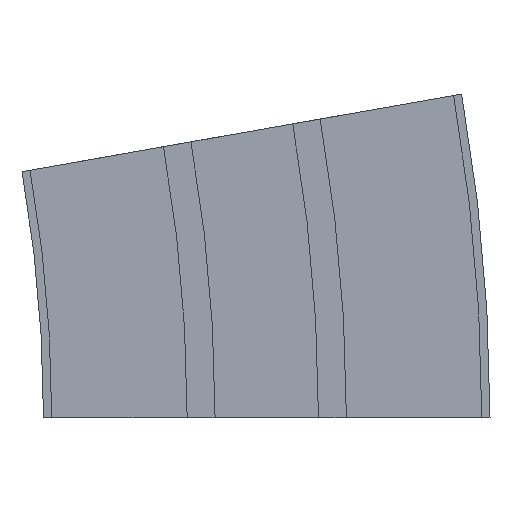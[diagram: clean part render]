
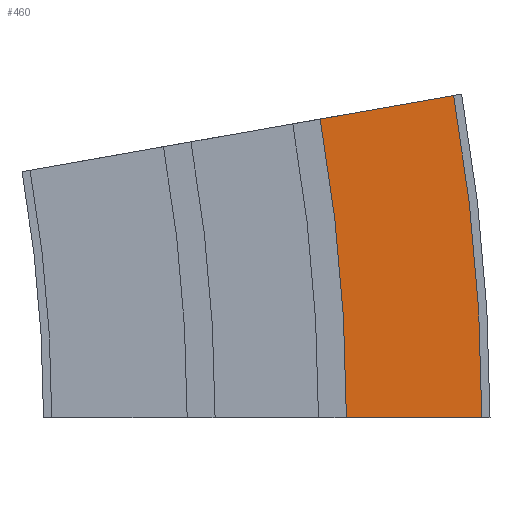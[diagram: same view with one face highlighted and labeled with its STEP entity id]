
A CAD part, left-side view. The second image highlights one B-rep face of the part: STEP entity #460.
In plain terms, the highlighted planar face has unit normal (-1, 0, 0).
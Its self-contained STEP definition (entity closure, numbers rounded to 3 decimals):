
#13 = DIRECTION ( 'NONE',  ( 0., -1., 0. ) ) ;
#19 = CARTESIAN_POINT ( 'NONE',  ( -249.5, -24.25, 0. ) ) ;
#26 = DIRECTION ( 'NONE',  ( 0., 0., -1. ) ) ;
#29 = DIRECTION ( 'NONE',  ( 1., 0., 0. ) ) ;
#31 = CARTESIAN_POINT ( 'NONE',  ( -249.5, 500., 0. ) ) ;
#36 = CARTESIAN_POINT ( 'NONE',  ( -249.5, -16.285, 91.035 ) ) ;
#58 = DIRECTION ( 'NONE',  ( 0., -0.985, 0.174 ) ) ;
#128 = CARTESIAN_POINT ( 'NONE',  ( -249.5, -56.909, 98.198 ) ) ;
#131 = CARTESIAN_POINT ( 'NONE',  ( -249.5, -16.285, 91.035 ) ) ;
#145 = CARTESIAN_POINT ( 'NONE',  ( -249.5, -65.5, 0. ) ) ;
#154 = CARTESIAN_POINT ( 'NONE',  ( -249.5, -24.25, 0. ) ) ;
#164 = ORIENTED_EDGE ( 'NONE', *, *, #866, .F. ) ;
#187 = EDGE_LOOP ( 'NONE', ( #164, #581, #580, #579 ) ) ;
#210 = DIRECTION ( 'NONE',  ( 0., 0., -1. ) ) ;
#211 = DIRECTION ( 'NONE',  ( 1., 0., 0. ) ) ;
#212 = CARTESIAN_POINT ( 'NONE',  ( -249.5, 500., 0. ) ) ;
#338 = DIRECTION ( 'NONE',  ( 0., 0., -1. ) ) ;
#339 = DIRECTION ( 'NONE',  ( 1., 0., 0. ) ) ;
#346 = CARTESIAN_POINT ( 'NONE',  ( -249.5, -16.285, 91.035 ) ) ;
#348 = PLANE ( 'NONE',  #938 ) ;
#460 = ADVANCED_FACE ( 'NONE', ( #778 ), #348, .F. ) ;
#568 = EDGE_CURVE ( 'NONE', #731, #719, #828, .T. ) ;
#579 = ORIENTED_EDGE ( 'NONE', *, *, #868, .T. ) ;
#580 = ORIENTED_EDGE ( 'NONE', *, *, #568, .T. ) ;
#581 = ORIENTED_EDGE ( 'NONE', *, *, #867, .F. ) ;
#719 = VERTEX_POINT ( 'NONE', #154 ) ;
#726 = VERTEX_POINT ( 'NONE', #145 ) ;
#731 = VERTEX_POINT ( 'NONE', #131 ) ;
#733 = VERTEX_POINT ( 'NONE', #128 ) ;
#778 = FACE_OUTER_BOUND ( 'NONE', #187, .T. ) ;
#828 = CIRCLE ( 'NONE', #971, 524.25 ) ;
#843 = CIRCLE ( 'NONE', #974, 565.5 ) ;
#848 = VECTOR ( 'NONE', #58, 1000. ) ;
#849 = LINE ( 'NONE', #19, #851 ) ;
#851 = VECTOR ( 'NONE', #13, 1000. ) ;
#852 = LINE ( 'NONE', #36, #848 ) ;
#866 = EDGE_CURVE ( 'NONE', #733, #726, #843, .T. ) ;
#867 = EDGE_CURVE ( 'NONE', #731, #733, #852, .T. ) ;
#868 = EDGE_CURVE ( 'NONE', #719, #726, #849, .T. ) ;
#938 = AXIS2_PLACEMENT_3D ( 'NONE', #346, #339, #338 ) ;
#971 = AXIS2_PLACEMENT_3D ( 'NONE', #212, #211, #210 ) ;
#974 = AXIS2_PLACEMENT_3D ( 'NONE', #31, #29, #26 ) ;
